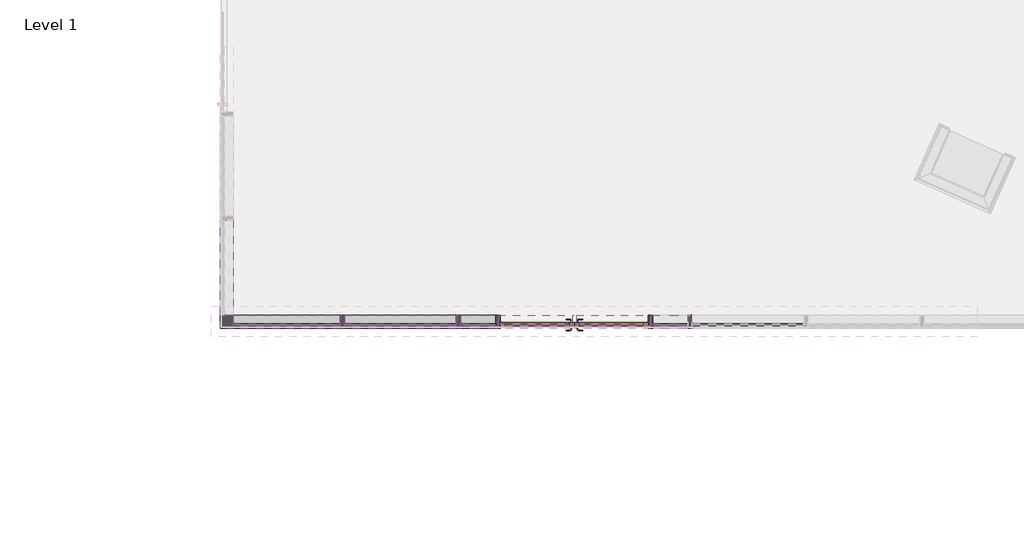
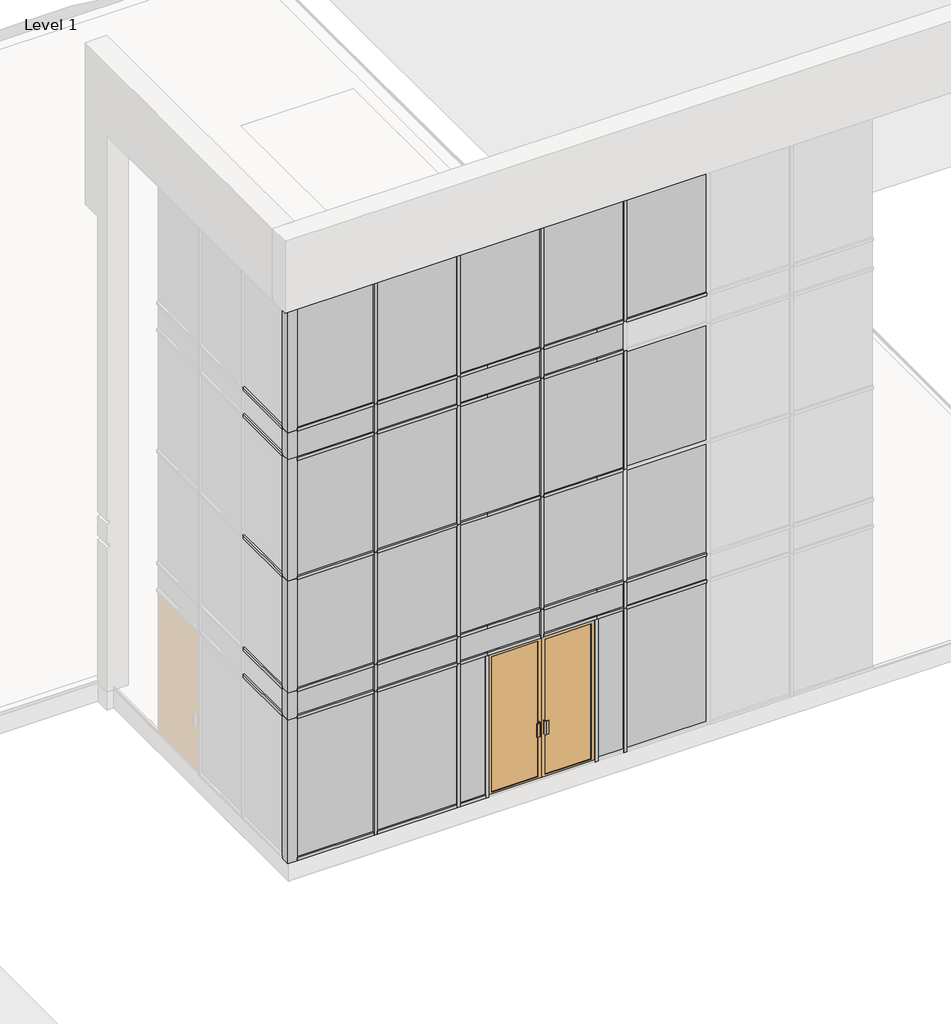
# One storey, part 1 of 6: 78 members, 29 plates, 1 door.
"""IFC4 building model written with IfcOpenShell, lengths in millimetres."""

from ifc_helpers import new_model, si_unit, origin, place, context, project, spatial, transform, mapped, element, save
from components import curtain_wall_store_front_dbl_store_front_double_door_801bb5a2, quad_corner_mullion_quad_mullion_1_36401268, quad_corner_mullion_quad_mullion_1_ea4f9b91, quad_corner_mullion_quad_mullion_1_01ad82a5, quad_corner_mullion_quad_mullion_1_1bba9a7c, quad_corner_mullion_quad_mullion_1_c8c6a4dc, rectangular_mullion_50_x_150mm_f9e96e8e, rectangular_mullion_50_x_150mm_3e94a90c, rectangular_mullion_50_x_150mm_e5e1dcca, rectangular_mullion_50_x_150mm_55a91b40, rectangular_mullion_50_x_150mm_2677f012, rectangular_mullion_50_x_150mm_a98d9a75, rectangular_mullion_50_x_150mm_ec0a15ed, rectangular_mullion_50_x_150mm_1c0c8fcc, rectangular_mullion_50_x_150mm_eadac301, rectangular_mullion_50_x_150mm_5d9cdbe7, rectangular_mullion_50_x_150mm_d8a6659f, rectangular_mullion_50_x_150mm_fcddba0b, rectangular_mullion_50_x_150mm_a0320c88, rectangular_mullion_50_x_150mm_ca17d0d0, rectangular_mullion_50_x_150mm_5d0e247a, rectangular_mullion_50_x_150mm_ac182503, rectangular_mullion_50_x_150mm_6df5bc23, rectangular_mullion_50_x_150mm_c664ab49, rectangular_mullion_50_x_150mm_22f77a7a, system_panel_glazed_e39aac95, system_panel_glazed_619aa5c3, system_panel_glazed_1cc95e9d, system_panel_glazed_5f4b9808, system_panel_glazed_b287760b, system_panel_glazed_29643dd6, system_panel_glazed_af9e971b, system_panel_glazed_48c6fd0a, system_panel_glazed_c7737e29, system_panel_glazed_306ee6b9, system_panel_glazed_77750b0d, system_panel_glazed_203c2d9e, system_panel_glazed_886dd139, system_panel_glazed_da816d4c, system_panel_glazed_7acc0e97, system_panel_glazed_b8e40a07, system_panel_glazed_b5705625, system_panel_glazed_676078d9, system_panel_glazed_869bd01b, system_panel_glazed_e5b4937b, system_panel_glazed_d8b70277, system_panel_glazed_a0fe1279, system_panel_glazed_06afaa24

model = new_model("IFC4")

# Units and contexts
model_context = context("Model", 3, world=origin())
ifc_project = project(units=[si_unit("LENGTHUNIT", "METRE", prefix="MILLI")], contexts=[model_context])

# Site, building, storey
site = spatial("IfcSite", under=ifc_project)
building = spatial("IfcBuilding", under=site)
storey = spatial("IfcBuildingStorey", under=building, Name="Level 1", Elevation=45720.0)

# Door
placement = place(None, origin())
curtain_wall_store_front_dbl_store_front_double_door_shape = curtain_wall_store_front_dbl_store_front_double_door_801bb5a2(model_context)
element("IfcDoor", 1, ObjectType="Curtain Wall-Store Front-Dbl : Store Front Double Door", at=placement, inside=storey, context=model_context, shape_type="MappedRepresentation", body=[
    mapped(curtain_wall_store_front_dbl_store_front_double_door_shape, transform((-6116.5463072, -8109.3373862, 45720.0), x_axis=(-1.0, 0.0, 0.0), y_axis=(0.0, -1.0, 0.0), z_axis=(0.0, 0.0, 1.0))),
])

# Members
quad_corner_mullion_quad_mullion_1_shape = quad_corner_mullion_quad_mullion_1_36401268(model_context)
element("IfcMember", 2, ObjectType="Quad Corner Mullion : Quad Mullion 1", at=placement, inside=storey, context=model_context, shape_type="MappedRepresentation", body=[
    mapped(quad_corner_mullion_quad_mullion_1_shape, transform((-10125.6188072, -8109.3373862, 50520.0), x_axis=(0.0, -1.0, 0.0), y_axis=(-1.0, 0.0, 0.0), z_axis=(0.0, 0.0, -1.0))),
])
quad_corner_mullion_quad_mullion_1_2_shape = quad_corner_mullion_quad_mullion_1_ea4f9b91(model_context)
element("IfcMember", 3, ObjectType="Quad Corner Mullion : Quad Mullion 1", at=placement, inside=storey, context=model_context, shape_type="MappedRepresentation", body=[
    mapped(quad_corner_mullion_quad_mullion_1_2_shape, transform((-10125.6188072, -8109.3373862, 53035.2), x_axis=(0.0, -1.0, 0.0), y_axis=(-1.0, 0.0, 0.0), z_axis=(0.0, 0.0, -1.0))),
])
quad_corner_mullion_quad_mullion_1_3_shape = quad_corner_mullion_quad_mullion_1_01ad82a5(model_context)
element("IfcMember", 4, ObjectType="Quad Corner Mullion : Quad Mullion 1", at=placement, inside=storey, context=model_context, shape_type="MappedRepresentation", body=[
    mapped(quad_corner_mullion_quad_mullion_1_3_shape, transform((-10125.6188072, -8109.3373862, 48615.6), x_axis=(0.0, -1.0, 0.0), y_axis=(-1.0, 0.0, 0.0), z_axis=(0.0, 0.0, -1.0))),
])
quad_corner_mullion_quad_mullion_1_4_shape = quad_corner_mullion_quad_mullion_1_1bba9a7c(model_context)
element("IfcMember", 5, ObjectType="Quad Corner Mullion : Quad Mullion 1", at=placement, inside=storey, context=model_context, shape_type="MappedRepresentation", body=[
    mapped(quad_corner_mullion_quad_mullion_1_4_shape, transform((-10125.6188072, -8109.3373862, 48158.4), x_axis=(0.0, -1.0, 0.0), y_axis=(-1.0, 0.0, 0.0), z_axis=(0.0, 0.0, -1.0))),
])
element("IfcMember", 6, ObjectType="Quad Corner Mullion : Quad Mullion 1", at=placement, inside=storey, context=model_context, shape_type="MappedRepresentation", body=[
    mapped(quad_corner_mullion_quad_mullion_1_4_shape, transform((-10125.6188072, -8109.3373862, 52578.0), x_axis=(0.0, -1.0, 0.0), y_axis=(-1.0, 0.0, 0.0), z_axis=(0.0, 0.0, -1.0))),
])
quad_corner_mullion_quad_mullion_1_5_shape = quad_corner_mullion_quad_mullion_1_c8c6a4dc(model_context)
element("IfcMember", 7, ObjectType="Quad Corner Mullion : Quad Mullion 1", at=placement, inside=storey, context=model_context, shape_type="MappedRepresentation", body=[
    mapped(quad_corner_mullion_quad_mullion_1_5_shape, transform((-10125.6188072, -8109.3373862, 45720.0), x_axis=(0.0, -1.0, 0.0), y_axis=(-1.0, 0.0, 0.0), z_axis=(0.0, 0.0, -1.0))),
])
rectangular_mullion_50_x_150mm_shape = rectangular_mullion_50_x_150mm_f9e96e8e(model_context)
element("IfcMember", 8, ObjectType="Rectangular Mullion : 50 x 150mm", at=placement, inside=storey, context=model_context, shape_type="MappedRepresentation", body=[
    mapped(rectangular_mullion_50_x_150mm_shape, transform((-10125.6188072, -8034.3373862, 55168.8), x_axis=(0.0, 0.0, 1.0), y_axis=(-1.0, 0.0, 0.0), z_axis=(0.0, -1.0, 0.0))),
])
rectangular_mullion_50_x_150mm_2_shape = rectangular_mullion_50_x_150mm_3e94a90c(model_context)
element("IfcMember", 9, ObjectType="Rectangular Mullion : 50 x 150mm", at=placement, inside=storey, context=model_context, shape_type="MappedRepresentation", body=[
    mapped(rectangular_mullion_50_x_150mm_2_shape, transform((-10125.6188072, -8034.3373862, 48158.4), x_axis=(0.0, 0.0, 1.0), y_axis=(-1.0, 0.0, 0.0), z_axis=(0.0, -1.0, 0.0))),
])
element("IfcMember", 10, ObjectType="Rectangular Mullion : 50 x 150mm", at=placement, inside=storey, context=model_context, shape_type="MappedRepresentation", body=[
    mapped(rectangular_mullion_50_x_150mm_2_shape, transform((-10125.6188072, -8034.3373862, 50520.0), x_axis=(0.0, 0.0, 1.0), y_axis=(-1.0, 0.0, 0.0), z_axis=(0.0, -1.0, 0.0))),
])
element("IfcMember", 11, ObjectType="Rectangular Mullion : 50 x 150mm", at=placement, inside=storey, context=model_context, shape_type="MappedRepresentation", body=[
    mapped(rectangular_mullion_50_x_150mm_2_shape, transform((-10125.6188072, -8034.3373862, 53035.2), x_axis=(0.0, 0.0, 1.0), y_axis=(-1.0, 0.0, 0.0), z_axis=(0.0, -1.0, 0.0))),
])
element("IfcMember", 12, ObjectType="Rectangular Mullion : 50 x 150mm", at=placement, inside=storey, context=model_context, shape_type="MappedRepresentation", body=[
    mapped(rectangular_mullion_50_x_150mm_2_shape, transform((-10125.6188072, -8034.3373862, 48615.6), x_axis=(0.0, 0.0, 1.0), y_axis=(-1.0, 0.0, 0.0), z_axis=(0.0, -1.0, 0.0))),
])
element("IfcMember", 13, ObjectType="Rectangular Mullion : 50 x 150mm", at=placement, inside=storey, context=model_context, shape_type="MappedRepresentation", body=[
    mapped(rectangular_mullion_50_x_150mm_2_shape, transform((-10125.6188072, -8034.3373862, 52578.0), x_axis=(0.0, 0.0, 1.0), y_axis=(-1.0, 0.0, 0.0), z_axis=(0.0, -1.0, 0.0))),
])
rectangular_mullion_50_x_150mm_3_shape = rectangular_mullion_50_x_150mm_e5e1dcca(model_context)
element("IfcMember", 14, ObjectType="Rectangular Mullion : 50 x 150mm", at=placement, inside=storey, context=model_context, shape_type="MappedRepresentation", body=[
    mapped(rectangular_mullion_50_x_150mm_3_shape, transform((-8789.2613072, -8109.3373862, 48158.4), x_axis=(-1.0, 0.0, 0.0), y_axis=(0.0, 1.0, 0.0), z_axis=(0.0, 0.0, -1.0))),
])
element("IfcMember", 15, ObjectType="Rectangular Mullion : 50 x 150mm", at=placement, inside=storey, context=model_context, shape_type="MappedRepresentation", body=[
    mapped(rectangular_mullion_50_x_150mm_3_shape, transform((-7452.9038072, -8109.3373862, 48158.4), x_axis=(-1.0, 0.0, 0.0), y_axis=(0.0, 1.0, 0.0), z_axis=(0.0, 0.0, -1.0))),
])
element("IfcMember", 16, ObjectType="Rectangular Mullion : 50 x 150mm", at=placement, inside=storey, context=model_context, shape_type="MappedRepresentation", body=[
    mapped(rectangular_mullion_50_x_150mm_3_shape, transform((-4780.1888072, -8109.3373862, 48158.4), x_axis=(-1.0, 0.0, 0.0), y_axis=(0.0, 1.0, 0.0), z_axis=(0.0, 0.0, -1.0))),
])
rectangular_mullion_50_x_150mm_4_shape = rectangular_mullion_50_x_150mm_55a91b40(model_context)
element("IfcMember", 17, ObjectType="Rectangular Mullion : 50 x 150mm", at=placement, inside=storey, context=model_context, shape_type="MappedRepresentation", body=[
    mapped(rectangular_mullion_50_x_150mm_4_shape, transform((-8789.2613072, -8109.3373862, 48615.6), x_axis=(-1.0, 0.0, 0.0), y_axis=(0.0, 1.0, 0.0), z_axis=(0.0, 0.0, -1.0))),
])
element("IfcMember", 18, ObjectType="Rectangular Mullion : 50 x 150mm", at=placement, inside=storey, context=model_context, shape_type="MappedRepresentation", body=[
    mapped(rectangular_mullion_50_x_150mm_4_shape, transform((-7452.9038072, -8109.3373862, 48615.6), x_axis=(-1.0, 0.0, 0.0), y_axis=(0.0, 1.0, 0.0), z_axis=(0.0, 0.0, -1.0))),
])
element("IfcMember", 19, ObjectType="Rectangular Mullion : 50 x 150mm", at=placement, inside=storey, context=model_context, shape_type="MappedRepresentation", body=[
    mapped(rectangular_mullion_50_x_150mm_4_shape, transform((-6116.5463072, -8109.3373862, 48615.6), x_axis=(-1.0, 0.0, 0.0), y_axis=(0.0, 1.0, 0.0), z_axis=(0.0, 0.0, -1.0))),
])
rectangular_mullion_50_x_150mm_5_shape = rectangular_mullion_50_x_150mm_2677f012(model_context)
element("IfcMember", 20, ObjectType="Rectangular Mullion : 50 x 150mm", at=placement, inside=storey, context=model_context, shape_type="MappedRepresentation", body=[
    mapped(rectangular_mullion_50_x_150mm_5_shape, transform((-8789.2613072, -8109.3373862, 53035.2), x_axis=(-1.0, 0.0, 0.0), y_axis=(0.0, 1.0, 0.0), z_axis=(0.0, 0.0, -1.0))),
])
element("IfcMember", 21, ObjectType="Rectangular Mullion : 50 x 150mm", at=placement, inside=storey, context=model_context, shape_type="MappedRepresentation", body=[
    mapped(rectangular_mullion_50_x_150mm_5_shape, transform((-7452.9038072, -8109.3373862, 53035.2), x_axis=(-1.0, 0.0, 0.0), y_axis=(0.0, 1.0, 0.0), z_axis=(0.0, 0.0, -1.0))),
])
element("IfcMember", 22, ObjectType="Rectangular Mullion : 50 x 150mm", at=placement, inside=storey, context=model_context, shape_type="MappedRepresentation", body=[
    mapped(rectangular_mullion_50_x_150mm_5_shape, transform((-4780.1888072, -8109.3373862, 53035.2), x_axis=(-1.0, 0.0, 0.0), y_axis=(0.0, 1.0, 0.0), z_axis=(0.0, 0.0, -1.0))),
])
element("IfcMember", 23, ObjectType="Rectangular Mullion : 50 x 150mm", at=placement, inside=storey, context=model_context, shape_type="MappedRepresentation", body=[
    mapped(rectangular_mullion_50_x_150mm_5_shape, transform((-6116.5463072, -8109.3373862, 53035.2), x_axis=(-1.0, 0.0, 0.0), y_axis=(0.0, 1.0, 0.0), z_axis=(0.0, 0.0, -1.0))),
])
rectangular_mullion_50_x_150mm_6_shape = rectangular_mullion_50_x_150mm_a98d9a75(model_context)
element("IfcMember", 24, ObjectType="Rectangular Mullion : 50 x 150mm", at=placement, inside=storey, context=model_context, shape_type="MappedRepresentation", body=[
    mapped(rectangular_mullion_50_x_150mm_6_shape, transform((-7452.9038072, -8109.3373862, 45720.0), x_axis=(-1.0, 0.0, 0.0), y_axis=(0.0, 1.0, 0.0), z_axis=(0.0, 0.0, -1.0))),
])
element("IfcMember", 25, ObjectType="Rectangular Mullion : 50 x 150mm", at=placement, inside=storey, context=model_context, shape_type="MappedRepresentation", body=[
    mapped(rectangular_mullion_50_x_150mm_6_shape, transform((-4780.1888072, -8109.3373862, 45720.0), x_axis=(-1.0, 0.0, 0.0), y_axis=(0.0, 1.0, 0.0), z_axis=(0.0, 0.0, -1.0))),
])
element("IfcMember", 26, ObjectType="Rectangular Mullion : 50 x 150mm", at=placement, inside=storey, context=model_context, shape_type="MappedRepresentation", body=[
    mapped(rectangular_mullion_50_x_150mm_6_shape, transform((-8789.2613072, -8109.3373862, 45720.0), x_axis=(-1.0, 0.0, 0.0), y_axis=(0.0, 1.0, 0.0), z_axis=(0.0, 0.0, -1.0))),
])
rectangular_mullion_50_x_150mm_7_shape = rectangular_mullion_50_x_150mm_ec0a15ed(model_context)
element("IfcMember", 27, ObjectType="Rectangular Mullion : 50 x 150mm", at=placement, inside=storey, context=model_context, shape_type="MappedRepresentation", body=[
    mapped(rectangular_mullion_50_x_150mm_7_shape, transform((-6116.5463072, -8109.3373862, 48133.4), x_axis=(-1.0, 0.0, 0.0), y_axis=(0.0, 1.0, 0.0), z_axis=(0.0, 0.0, -1.0))),
])
rectangular_mullion_50_x_150mm_8_shape = rectangular_mullion_50_x_150mm_1c0c8fcc(model_context)
element("IfcMember", 28, ObjectType="Rectangular Mullion : 50 x 150mm", at=placement, inside=storey, context=model_context, shape_type="MappedRepresentation", body=[
    mapped(rectangular_mullion_50_x_150mm_8_shape, transform((-4755.1888072, -8109.3373862, 48615.6), x_axis=(0.0, 0.0, 1.0), y_axis=(0.0, 1.0, 0.0), z_axis=(-1.0, 0.0, 0.0))),
])
element("IfcMember", 29, ObjectType="Rectangular Mullion : 50 x 150mm", at=placement, inside=storey, context=model_context, shape_type="MappedRepresentation", body=[
    mapped(rectangular_mullion_50_x_150mm_8_shape, transform((-8764.2613072, -8109.3373862, 48158.4), x_axis=(0.0, 0.0, 1.0), y_axis=(0.0, 1.0, 0.0), z_axis=(-1.0, 0.0, 0.0))),
])
element("IfcMember", 30, ObjectType="Rectangular Mullion : 50 x 150mm", at=placement, inside=storey, context=model_context, shape_type="MappedRepresentation", body=[
    mapped(rectangular_mullion_50_x_150mm_8_shape, transform((-4755.1888072, -8109.3373862, 48158.4), x_axis=(0.0, 0.0, 1.0), y_axis=(0.0, 1.0, 0.0), z_axis=(-1.0, 0.0, 0.0))),
])
element("IfcMember", 31, ObjectType="Rectangular Mullion : 50 x 150mm", at=placement, inside=storey, context=model_context, shape_type="MappedRepresentation", body=[
    mapped(rectangular_mullion_50_x_150mm_8_shape, transform((-8764.2613072, -8109.3373862, 48615.6), x_axis=(0.0, 0.0, 1.0), y_axis=(0.0, 1.0, 0.0), z_axis=(-1.0, 0.0, 0.0))),
])
element("IfcMember", 32, ObjectType="Rectangular Mullion : 50 x 150mm", at=placement, inside=storey, context=model_context, shape_type="MappedRepresentation", body=[
    mapped(rectangular_mullion_50_x_150mm_8_shape, transform((-4755.1888072, -8109.3373862, 53035.2), x_axis=(0.0, 0.0, 1.0), y_axis=(0.0, 1.0, 0.0), z_axis=(-1.0, 0.0, 0.0))),
])
element("IfcMember", 33, ObjectType="Rectangular Mullion : 50 x 150mm", at=placement, inside=storey, context=model_context, shape_type="MappedRepresentation", body=[
    mapped(rectangular_mullion_50_x_150mm_8_shape, transform((-8764.2613072, -8109.3373862, 50520.0), x_axis=(0.0, 0.0, 1.0), y_axis=(0.0, 1.0, 0.0), z_axis=(-1.0, 0.0, 0.0))),
])
element("IfcMember", 34, ObjectType="Rectangular Mullion : 50 x 150mm", at=placement, inside=storey, context=model_context, shape_type="MappedRepresentation", body=[
    mapped(rectangular_mullion_50_x_150mm_8_shape, transform((-8764.2613072, -8109.3373862, 53035.2), x_axis=(0.0, 0.0, 1.0), y_axis=(0.0, 1.0, 0.0), z_axis=(-1.0, 0.0, 0.0))),
])
element("IfcMember", 35, ObjectType="Rectangular Mullion : 50 x 150mm", at=placement, inside=storey, context=model_context, shape_type="MappedRepresentation", body=[
    mapped(rectangular_mullion_50_x_150mm_8_shape, transform((-8764.2613072, -8109.3373862, 52535.2), x_axis=(0.0, 0.0, 1.0), y_axis=(0.0, 1.0, 0.0), z_axis=(-1.0, 0.0, 0.0))),
])
rectangular_mullion_50_x_150mm_9_shape = rectangular_mullion_50_x_150mm_eadac301(model_context)
element("IfcMember", 36, ObjectType="Rectangular Mullion : 50 x 150mm", at=placement, inside=storey, context=model_context, shape_type="MappedRepresentation", body=[
    mapped(rectangular_mullion_50_x_150mm_9_shape, transform((-10050.6188072, -8109.3373862, 50520.0), x_axis=(0.0, 0.0, 1.0), y_axis=(0.0, 1.0, 0.0), z_axis=(-1.0, 0.0, 0.0))),
])
element("IfcMember", 37, ObjectType="Rectangular Mullion : 50 x 150mm", at=placement, inside=storey, context=model_context, shape_type="MappedRepresentation", body=[
    mapped(rectangular_mullion_50_x_150mm_9_shape, transform((-10050.6188072, -8109.3373862, 48158.4), x_axis=(0.0, 0.0, 1.0), y_axis=(0.0, 1.0, 0.0), z_axis=(-1.0, 0.0, 0.0))),
])
element("IfcMember", 38, ObjectType="Rectangular Mullion : 50 x 150mm", at=placement, inside=storey, context=model_context, shape_type="MappedRepresentation", body=[
    mapped(rectangular_mullion_50_x_150mm_9_shape, transform((-10050.6188072, -8109.3373862, 48615.6), x_axis=(0.0, 0.0, 1.0), y_axis=(0.0, 1.0, 0.0), z_axis=(-1.0, 0.0, 0.0))),
])
element("IfcMember", 39, ObjectType="Rectangular Mullion : 50 x 150mm", at=placement, inside=storey, context=model_context, shape_type="MappedRepresentation", body=[
    mapped(rectangular_mullion_50_x_150mm_9_shape, transform((-10050.6188072, -8109.3373862, 53035.2), x_axis=(0.0, 0.0, 1.0), y_axis=(0.0, 1.0, 0.0), z_axis=(-1.0, 0.0, 0.0))),
])
element("IfcMember", 40, ObjectType="Rectangular Mullion : 50 x 150mm", at=placement, inside=storey, context=model_context, shape_type="MappedRepresentation", body=[
    mapped(rectangular_mullion_50_x_150mm_9_shape, transform((-10050.6188072, -8109.3373862, 52535.2), x_axis=(0.0, 0.0, 1.0), y_axis=(0.0, 1.0, 0.0), z_axis=(-1.0, 0.0, 0.0))),
])
rectangular_mullion_50_x_150mm_10_shape = rectangular_mullion_50_x_150mm_5d9cdbe7(model_context)
element("IfcMember", 41, ObjectType="Rectangular Mullion : 50 x 150mm", at=placement, inside=storey, context=model_context, shape_type="MappedRepresentation", body=[
    mapped(rectangular_mullion_50_x_150mm_10_shape, transform((-7477.9038072, -8109.3373862, 45720.0), x_axis=(0.0, 0.0, -1.0), y_axis=(0.0, 1.0, 0.0), z_axis=(1.0, 0.0, 0.0))),
])
element("IfcMember", 42, ObjectType="Rectangular Mullion : 50 x 150mm", at=placement, inside=storey, context=model_context, shape_type="MappedRepresentation", body=[
    mapped(rectangular_mullion_50_x_150mm_10_shape, transform((-8764.2613072, -8109.3373862, 55168.8), x_axis=(0.0, 0.0, 1.0), y_axis=(0.0, 1.0, 0.0), z_axis=(-1.0, 0.0, 0.0))),
])
element("IfcMember", 43, ObjectType="Rectangular Mullion : 50 x 150mm", at=placement, inside=storey, context=model_context, shape_type="MappedRepresentation", body=[
    mapped(rectangular_mullion_50_x_150mm_10_shape, transform((-4755.1888072, -8109.3373862, 55168.8), x_axis=(0.0, 0.0, 1.0), y_axis=(0.0, 1.0, 0.0), z_axis=(-1.0, 0.0, 0.0))),
])
rectangular_mullion_50_x_150mm_11_shape = rectangular_mullion_50_x_150mm_d8a6659f(model_context)
element("IfcMember", 44, ObjectType="Rectangular Mullion : 50 x 150mm", at=placement, inside=storey, context=model_context, shape_type="MappedRepresentation", body=[
    mapped(rectangular_mullion_50_x_150mm_11_shape, transform((-10050.6188072, -8109.3373862, 55168.8), x_axis=(0.0, 0.0, 1.0), y_axis=(0.0, 1.0, 0.0), z_axis=(-1.0, 0.0, 0.0))),
])
element("IfcMember", 45, ObjectType="Rectangular Mullion : 50 x 150mm", at=placement, inside=storey, context=model_context, shape_type="MappedRepresentation", body=[
    mapped(rectangular_mullion_50_x_150mm_11_shape, transform((-8814.2613072, -8109.3373862, 45720.0), x_axis=(0.0, 0.0, -1.0), y_axis=(0.0, 1.0, 0.0), z_axis=(1.0, 0.0, 0.0))),
])
rectangular_mullion_50_x_150mm_12_shape = rectangular_mullion_50_x_150mm_fcddba0b(model_context)
element("IfcMember", 46, ObjectType="Rectangular Mullion : 50 x 150mm", at=placement, inside=storey, context=model_context, shape_type="MappedRepresentation", body=[
    mapped(rectangular_mullion_50_x_150mm_12_shape, transform((-6995.7038072, -8109.3373862, 45720.0), x_axis=(-1.0, 0.0, 0.0), y_axis=(0.0, 1.0, 0.0), z_axis=(0.0, 0.0, -1.0))),
])
element("IfcMember", 47, ObjectType="Rectangular Mullion : 50 x 150mm", at=placement, inside=storey, context=model_context, shape_type="MappedRepresentation", body=[
    mapped(rectangular_mullion_50_x_150mm_12_shape, transform((-5237.3888072, -8109.3373862, 45720.0), x_axis=(-1.0, 0.0, 0.0), y_axis=(0.0, 1.0, 0.0), z_axis=(0.0, 0.0, -1.0))),
])
rectangular_mullion_50_x_150mm_13_shape = rectangular_mullion_50_x_150mm_a0320c88(model_context)
element("IfcMember", 48, ObjectType="Rectangular Mullion : 50 x 150mm", at=placement, inside=storey, context=model_context, shape_type="MappedRepresentation", body=[
    mapped(rectangular_mullion_50_x_150mm_13_shape, transform((-7427.9038072, -8109.3373862, 55168.8), x_axis=(0.0, 0.0, 1.0), y_axis=(0.0, 1.0, 0.0), z_axis=(-1.0, 0.0, 0.0))),
])
rectangular_mullion_50_x_150mm_14_shape = rectangular_mullion_50_x_150mm_ca17d0d0(model_context)
element("IfcMember", 49, ObjectType="Rectangular Mullion : 50 x 150mm", at=placement, inside=storey, context=model_context, shape_type="MappedRepresentation", body=[
    mapped(rectangular_mullion_50_x_150mm_14_shape, transform((-6995.7038072, -8109.3373862, 48158.4), x_axis=(0.0, 0.0, 1.0), y_axis=(0.0, 1.0, 0.0), z_axis=(-1.0, 0.0, 0.0))),
])
element("IfcMember", 50, ObjectType="Rectangular Mullion : 50 x 150mm", at=placement, inside=storey, context=model_context, shape_type="MappedRepresentation", body=[
    mapped(rectangular_mullion_50_x_150mm_14_shape, transform((-6995.7038072, -8109.3373862, 48615.6), x_axis=(0.0, 0.0, 1.0), y_axis=(0.0, 1.0, 0.0), z_axis=(-1.0, 0.0, 0.0))),
])
element("IfcMember", 51, ObjectType="Rectangular Mullion : 50 x 150mm", at=placement, inside=storey, context=model_context, shape_type="MappedRepresentation", body=[
    mapped(rectangular_mullion_50_x_150mm_14_shape, transform((-6995.7038072, -8109.3373862, 50520.0), x_axis=(0.0, 0.0, 1.0), y_axis=(0.0, 1.0, 0.0), z_axis=(-1.0, 0.0, 0.0))),
])
element("IfcMember", 52, ObjectType="Rectangular Mullion : 50 x 150mm", at=placement, inside=storey, context=model_context, shape_type="MappedRepresentation", body=[
    mapped(rectangular_mullion_50_x_150mm_14_shape, transform((-6995.7038072, -8109.3373862, 53035.2), x_axis=(0.0, 0.0, 1.0), y_axis=(0.0, 1.0, 0.0), z_axis=(-1.0, 0.0, 0.0))),
])
element("IfcMember", 53, ObjectType="Rectangular Mullion : 50 x 150mm", at=placement, inside=storey, context=model_context, shape_type="MappedRepresentation", body=[
    mapped(rectangular_mullion_50_x_150mm_14_shape, transform((-6995.7038072, -8109.3373862, 52535.2), x_axis=(0.0, 0.0, 1.0), y_axis=(0.0, 1.0, 0.0), z_axis=(-1.0, 0.0, 0.0))),
])
rectangular_mullion_50_x_150mm_15_shape = rectangular_mullion_50_x_150mm_5d0e247a(model_context)
element("IfcMember", 54, ObjectType="Rectangular Mullion : 50 x 150mm", at=placement, inside=storey, context=model_context, shape_type="MappedRepresentation", body=[
    mapped(rectangular_mullion_50_x_150mm_15_shape, transform((-6995.7038072, -8109.3373862, 55168.8), x_axis=(0.0, 0.0, 1.0), y_axis=(0.0, 1.0, 0.0), z_axis=(-1.0, 0.0, 0.0))),
])
rectangular_mullion_50_x_150mm_16_shape = rectangular_mullion_50_x_150mm_ac182503(model_context)
element("IfcMember", 55, ObjectType="Rectangular Mullion : 50 x 150mm", at=placement, inside=storey, context=model_context, shape_type="MappedRepresentation", body=[
    mapped(rectangular_mullion_50_x_150mm_16_shape, transform((-7427.9038072, -8109.3373862, 48158.4), x_axis=(0.0, 0.0, 1.0), y_axis=(0.0, 1.0, 0.0), z_axis=(-1.0, 0.0, 0.0))),
])
element("IfcMember", 56, ObjectType="Rectangular Mullion : 50 x 150mm", at=placement, inside=storey, context=model_context, shape_type="MappedRepresentation", body=[
    mapped(rectangular_mullion_50_x_150mm_16_shape, transform((-7427.9038072, -8109.3373862, 48615.6), x_axis=(0.0, 0.0, 1.0), y_axis=(0.0, 1.0, 0.0), z_axis=(-1.0, 0.0, 0.0))),
])
element("IfcMember", 57, ObjectType="Rectangular Mullion : 50 x 150mm", at=placement, inside=storey, context=model_context, shape_type="MappedRepresentation", body=[
    mapped(rectangular_mullion_50_x_150mm_16_shape, transform((-7427.9038072, -8109.3373862, 50520.0), x_axis=(0.0, 0.0, 1.0), y_axis=(0.0, 1.0, 0.0), z_axis=(-1.0, 0.0, 0.0))),
])
element("IfcMember", 58, ObjectType="Rectangular Mullion : 50 x 150mm", at=placement, inside=storey, context=model_context, shape_type="MappedRepresentation", body=[
    mapped(rectangular_mullion_50_x_150mm_16_shape, transform((-7427.9038072, -8109.3373862, 53035.2), x_axis=(0.0, 0.0, 1.0), y_axis=(0.0, 1.0, 0.0), z_axis=(-1.0, 0.0, 0.0))),
])
element("IfcMember", 59, ObjectType="Rectangular Mullion : 50 x 150mm", at=placement, inside=storey, context=model_context, shape_type="MappedRepresentation", body=[
    mapped(rectangular_mullion_50_x_150mm_16_shape, transform((-7427.9038072, -8109.3373862, 52535.2), x_axis=(0.0, 0.0, 1.0), y_axis=(0.0, 1.0, 0.0), z_axis=(-1.0, 0.0, 0.0))),
])
rectangular_mullion_50_x_150mm_17_shape = rectangular_mullion_50_x_150mm_6df5bc23(model_context)
element("IfcMember", 60, ObjectType="Rectangular Mullion : 50 x 150mm", at=placement, inside=storey, context=model_context, shape_type="MappedRepresentation", body=[
    mapped(rectangular_mullion_50_x_150mm_17_shape, transform((-7020.7038072, -8109.3373862, 45720.0), x_axis=(0.0, 0.0, -1.0), y_axis=(0.0, 1.0, 0.0), z_axis=(1.0, 0.0, 0.0))),
])
element("IfcMember", 61, ObjectType="Rectangular Mullion : 50 x 150mm", at=placement, inside=storey, context=model_context, shape_type="MappedRepresentation", body=[
    mapped(rectangular_mullion_50_x_150mm_16_shape, transform((-5237.3888072, -8109.3373862, 48615.6), x_axis=(0.0, 0.0, 1.0), y_axis=(0.0, 1.0, 0.0), z_axis=(-1.0, 0.0, 0.0))),
])
element("IfcMember", 62, ObjectType="Rectangular Mullion : 50 x 150mm", at=placement, inside=storey, context=model_context, shape_type="MappedRepresentation", body=[
    mapped(rectangular_mullion_50_x_150mm_16_shape, transform((-5237.3888072, -8109.3373862, 53035.2), x_axis=(0.0, 0.0, 1.0), y_axis=(0.0, 1.0, 0.0), z_axis=(-1.0, 0.0, 0.0))),
])
element("IfcMember", 63, ObjectType="Rectangular Mullion : 50 x 150mm", at=placement, inside=storey, context=model_context, shape_type="MappedRepresentation", body=[
    mapped(rectangular_mullion_50_x_150mm_16_shape, transform((-5237.3888072, -8109.3373862, 50520.0), x_axis=(0.0, 0.0, 1.0), y_axis=(0.0, 1.0, 0.0), z_axis=(-1.0, 0.0, 0.0))),
])
element("IfcMember", 64, ObjectType="Rectangular Mullion : 50 x 150mm", at=placement, inside=storey, context=model_context, shape_type="MappedRepresentation", body=[
    mapped(rectangular_mullion_50_x_150mm_16_shape, transform((-5237.3888072, -8109.3373862, 52535.2), x_axis=(0.0, 0.0, 1.0), y_axis=(0.0, 1.0, 0.0), z_axis=(-1.0, 0.0, 0.0))),
])
element("IfcMember", 65, ObjectType="Rectangular Mullion : 50 x 150mm", at=placement, inside=storey, context=model_context, shape_type="MappedRepresentation", body=[
    mapped(rectangular_mullion_50_x_150mm_15_shape, transform((-6091.5463072, -8109.3373862, 55168.8), x_axis=(0.0, 0.0, 1.0), y_axis=(0.0, 1.0, 0.0), z_axis=(-1.0, 0.0, 0.0))),
])
element("IfcMember", 66, ObjectType="Rectangular Mullion : 50 x 150mm", at=placement, inside=storey, context=model_context, shape_type="MappedRepresentation", body=[
    mapped(rectangular_mullion_50_x_150mm_16_shape, transform((-5237.3888072, -8109.3373862, 48158.4), x_axis=(0.0, 0.0, 1.0), y_axis=(0.0, 1.0, 0.0), z_axis=(-1.0, 0.0, 0.0))),
])
element("IfcMember", 67, ObjectType="Rectangular Mullion : 50 x 150mm", at=placement, inside=storey, context=model_context, shape_type="MappedRepresentation", body=[
    mapped(rectangular_mullion_50_x_150mm_14_shape, transform((-6091.5463072, -8109.3373862, 48615.6), x_axis=(0.0, 0.0, 1.0), y_axis=(0.0, 1.0, 0.0), z_axis=(-1.0, 0.0, 0.0))),
])
element("IfcMember", 68, ObjectType="Rectangular Mullion : 50 x 150mm", at=placement, inside=storey, context=model_context, shape_type="MappedRepresentation", body=[
    mapped(rectangular_mullion_50_x_150mm_14_shape, transform((-6091.5463072, -8109.3373862, 53035.2), x_axis=(0.0, 0.0, 1.0), y_axis=(0.0, 1.0, 0.0), z_axis=(-1.0, 0.0, 0.0))),
])
element("IfcMember", 69, ObjectType="Rectangular Mullion : 50 x 150mm", at=placement, inside=storey, context=model_context, shape_type="MappedRepresentation", body=[
    mapped(rectangular_mullion_50_x_150mm_14_shape, transform((-6091.5463072, -8109.3373862, 50520.0), x_axis=(0.0, 0.0, 1.0), y_axis=(0.0, 1.0, 0.0), z_axis=(-1.0, 0.0, 0.0))),
])
element("IfcMember", 70, ObjectType="Rectangular Mullion : 50 x 150mm", at=placement, inside=storey, context=model_context, shape_type="MappedRepresentation", body=[
    mapped(rectangular_mullion_50_x_150mm_14_shape, transform((-6091.5463072, -8109.3373862, 52535.2), x_axis=(0.0, 0.0, 1.0), y_axis=(0.0, 1.0, 0.0), z_axis=(-1.0, 0.0, 0.0))),
])
element("IfcMember", 71, ObjectType="Rectangular Mullion : 50 x 150mm", at=placement, inside=storey, context=model_context, shape_type="MappedRepresentation", body=[
    mapped(rectangular_mullion_50_x_150mm_13_shape, transform((-5237.3888072, -8109.3373862, 55168.8), x_axis=(0.0, 0.0, 1.0), y_axis=(0.0, 1.0, 0.0), z_axis=(-1.0, 0.0, 0.0))),
])
element("IfcMember", 72, ObjectType="Rectangular Mullion : 50 x 150mm", at=placement, inside=storey, context=model_context, shape_type="MappedRepresentation", body=[
    mapped(rectangular_mullion_50_x_150mm_14_shape, transform((-6091.5463072, -8109.3373862, 48158.4), x_axis=(0.0, 0.0, 1.0), y_axis=(0.0, 1.0, 0.0), z_axis=(-1.0, 0.0, 0.0))),
])
rectangular_mullion_50_x_150mm_18_shape = rectangular_mullion_50_x_150mm_c664ab49(model_context)
element("IfcMember", 73, ObjectType="Rectangular Mullion : 50 x 150mm", at=placement, inside=storey, context=model_context, shape_type="MappedRepresentation", body=[
    mapped(rectangular_mullion_50_x_150mm_18_shape, transform((-7452.9038072, -8109.3373862, 50520.0), x_axis=(-1.0, 0.0, 0.0), y_axis=(0.0, 1.0, 0.0), z_axis=(0.0, 0.0, -1.0))),
])
element("IfcMember", 74, ObjectType="Rectangular Mullion : 50 x 150mm", at=placement, inside=storey, context=model_context, shape_type="MappedRepresentation", body=[
    mapped(rectangular_mullion_50_x_150mm_18_shape, transform((-8789.2613072, -8109.3373862, 50520.0), x_axis=(-1.0, 0.0, 0.0), y_axis=(0.0, 1.0, 0.0), z_axis=(0.0, 0.0, -1.0))),
])
element("IfcMember", 75, ObjectType="Rectangular Mullion : 50 x 150mm", at=placement, inside=storey, context=model_context, shape_type="MappedRepresentation", body=[
    mapped(rectangular_mullion_50_x_150mm_18_shape, transform((-6116.5463072, -8109.3373862, 50520.0), x_axis=(-1.0, 0.0, 0.0), y_axis=(0.0, 1.0, 0.0), z_axis=(0.0, 0.0, -1.0))),
])
element("IfcMember", 76, ObjectType="Rectangular Mullion : 50 x 150mm", at=placement, inside=storey, context=model_context, shape_type="MappedRepresentation", body=[
    mapped(rectangular_mullion_50_x_150mm_18_shape, transform((-4780.1888072, -8109.3373862, 50520.0), x_axis=(-1.0, 0.0, 0.0), y_axis=(0.0, 1.0, 0.0), z_axis=(0.0, 0.0, -1.0))),
])
rectangular_mullion_50_x_150mm_19_shape = rectangular_mullion_50_x_150mm_22f77a7a(model_context)
element("IfcMember", 77, ObjectType="Rectangular Mullion : 50 x 150mm", at=placement, inside=storey, context=model_context, shape_type="MappedRepresentation", body=[
    mapped(rectangular_mullion_50_x_150mm_19_shape, transform((-7452.9038072, -8109.3373862, 52535.2), x_axis=(-1.0, 0.0, 0.0), y_axis=(0.0, 1.0, 0.0), z_axis=(0.0, 0.0, -1.0))),
])
element("IfcMember", 78, ObjectType="Rectangular Mullion : 50 x 150mm", at=placement, inside=storey, context=model_context, shape_type="MappedRepresentation", body=[
    mapped(rectangular_mullion_50_x_150mm_19_shape, transform((-8789.2613072, -8109.3373862, 52535.2), x_axis=(-1.0, 0.0, 0.0), y_axis=(0.0, 1.0, 0.0), z_axis=(0.0, 0.0, -1.0))),
])
element("IfcMember", 79, ObjectType="Rectangular Mullion : 50 x 150mm", at=placement, inside=storey, context=model_context, shape_type="MappedRepresentation", body=[
    mapped(rectangular_mullion_50_x_150mm_19_shape, transform((-6116.5463072, -8109.3373862, 52535.2), x_axis=(-1.0, 0.0, 0.0), y_axis=(0.0, 1.0, 0.0), z_axis=(0.0, 0.0, -1.0))),
])

# Plates
system_panel_glazed_shape = system_panel_glazed_e39aac95(model_context)
element("IfcPlate", 80, ObjectType="System Panel : Glazed", at=placement, inside=storey, context=model_context, shape_type="MappedRepresentation", body=[
    mapped(system_panel_glazed_shape, transform((-9432.4400572, -8109.3373862, 45770.0), x_axis=(-1.0, 0.0, 0.0), y_axis=(0.0, -1.0, 0.0), z_axis=(0.0, 0.0, 1.0))),
])
system_panel_glazed_2_shape = system_panel_glazed_619aa5c3(model_context)
element("IfcPlate", 81, ObjectType="System Panel : Glazed", at=placement, inside=storey, context=model_context, shape_type="MappedRepresentation", body=[
    mapped(system_panel_glazed_2_shape, transform((-9432.4400572, -8109.3373862, 48183.4), x_axis=(-1.0, 0.0, 0.0), y_axis=(0.0, -1.0, 0.0), z_axis=(0.0, 0.0, 1.0))),
])
system_panel_glazed_3_shape = system_panel_glazed_1cc95e9d(model_context)
element("IfcPlate", 82, ObjectType="System Panel : Glazed", at=placement, inside=storey, context=model_context, shape_type="MappedRepresentation", body=[
    mapped(system_panel_glazed_3_shape, transform((-9432.4400572, -8109.3373862, 48640.6), x_axis=(-1.0, 0.0, 0.0), y_axis=(0.0, -1.0, 0.0), z_axis=(0.0, 0.0, 1.0))),
])
system_panel_glazed_4_shape = system_panel_glazed_5f4b9808(model_context)
element("IfcPlate", 83, ObjectType="System Panel : Glazed", at=placement, inside=storey, context=model_context, shape_type="MappedRepresentation", body=[
    mapped(system_panel_glazed_4_shape, transform((-9432.4400572, -8109.3373862, 53060.2), x_axis=(-1.0, 0.0, 0.0), y_axis=(0.0, -1.0, 0.0), z_axis=(0.0, 0.0, 1.0))),
])
system_panel_glazed_5_shape = system_panel_glazed_b287760b(model_context)
element("IfcPlate", 84, ObjectType="System Panel : Glazed", at=placement, inside=storey, context=model_context, shape_type="MappedRepresentation", body=[
    mapped(system_panel_glazed_5_shape, transform((-8121.0825572, -8109.3373862, 45770.0), x_axis=(-1.0, 0.0, 0.0), y_axis=(0.0, -1.0, 0.0), z_axis=(0.0, 0.0, 1.0))),
])
element("IfcPlate", 85, ObjectType="System Panel : Glazed", at=placement, inside=storey, context=model_context, shape_type="MappedRepresentation", body=[
    mapped(system_panel_glazed_5_shape, transform((-4112.0100572, -8109.3373862, 45770.0), x_axis=(-1.0, 0.0, 0.0), y_axis=(0.0, -1.0, 0.0), z_axis=(0.0, 0.0, 1.0))),
])
system_panel_glazed_6_shape = system_panel_glazed_29643dd6(model_context)
element("IfcPlate", 86, ObjectType="System Panel : Glazed", at=placement, inside=storey, context=model_context, shape_type="MappedRepresentation", body=[
    mapped(system_panel_glazed_6_shape, transform((-8121.0825572, -8109.3373862, 48183.4), x_axis=(-1.0, 0.0, 0.0), y_axis=(0.0, -1.0, 0.0), z_axis=(0.0, 0.0, 1.0))),
])
element("IfcPlate", 87, ObjectType="System Panel : Glazed", at=placement, inside=storey, context=model_context, shape_type="MappedRepresentation", body=[
    mapped(system_panel_glazed_6_shape, transform((-4112.0100572, -8109.3373862, 48183.4), x_axis=(-1.0, 0.0, 0.0), y_axis=(0.0, -1.0, 0.0), z_axis=(0.0, 0.0, 1.0))),
])
system_panel_glazed_7_shape = system_panel_glazed_af9e971b(model_context)
element("IfcPlate", 88, ObjectType="System Panel : Glazed", at=placement, inside=storey, context=model_context, shape_type="MappedRepresentation", body=[
    mapped(system_panel_glazed_7_shape, transform((-8121.0825572, -8109.3373862, 48640.6), x_axis=(-1.0, 0.0, 0.0), y_axis=(0.0, -1.0, 0.0), z_axis=(0.0, 0.0, 1.0))),
])
element("IfcPlate", 89, ObjectType="System Panel : Glazed", at=placement, inside=storey, context=model_context, shape_type="MappedRepresentation", body=[
    mapped(system_panel_glazed_7_shape, transform((-4112.0100572, -8109.3373862, 48640.6), x_axis=(-1.0, 0.0, 0.0), y_axis=(0.0, -1.0, 0.0), z_axis=(0.0, 0.0, 1.0))),
])
system_panel_glazed_8_shape = system_panel_glazed_48c6fd0a(model_context)
element("IfcPlate", 90, ObjectType="System Panel : Glazed", at=placement, inside=storey, context=model_context, shape_type="MappedRepresentation", body=[
    mapped(system_panel_glazed_8_shape, transform((-8121.0825572, -8109.3373862, 53060.2), x_axis=(-1.0, 0.0, 0.0), y_axis=(0.0, -1.0, 0.0), z_axis=(0.0, 0.0, 1.0))),
])
element("IfcPlate", 91, ObjectType="System Panel : Glazed", at=placement, inside=storey, context=model_context, shape_type="MappedRepresentation", body=[
    mapped(system_panel_glazed_8_shape, transform((-4112.0100572, -8109.3373862, 53060.2), x_axis=(-1.0, 0.0, 0.0), y_axis=(0.0, -1.0, 0.0), z_axis=(0.0, 0.0, 1.0))),
])
system_panel_glazed_9_shape = system_panel_glazed_c7737e29(model_context)
element("IfcPlate", 92, ObjectType="System Panel : Glazed", at=placement, inside=storey, context=model_context, shape_type="MappedRepresentation", body=[
    mapped(system_panel_glazed_9_shape, transform((-6784.7250572, -8109.3373862, 48183.4), x_axis=(-1.0, 0.0, 0.0), y_axis=(0.0, -1.0, 0.0), z_axis=(0.0, 0.0, 1.0))),
])
system_panel_glazed_10_shape = system_panel_glazed_306ee6b9(model_context)
element("IfcPlate", 93, ObjectType="System Panel : Glazed", at=placement, inside=storey, context=model_context, shape_type="MappedRepresentation", body=[
    mapped(system_panel_glazed_10_shape, transform((-6784.7250572, -8109.3373862, 48640.6), x_axis=(-1.0, 0.0, 0.0), y_axis=(0.0, -1.0, 0.0), z_axis=(0.0, 0.0, 1.0))),
])
system_panel_glazed_11_shape = system_panel_glazed_77750b0d(model_context)
element("IfcPlate", 94, ObjectType="System Panel : Glazed", at=placement, inside=storey, context=model_context, shape_type="MappedRepresentation", body=[
    mapped(system_panel_glazed_11_shape, transform((-6784.7250572, -8109.3373862, 53060.2), x_axis=(-1.0, 0.0, 0.0), y_axis=(0.0, -1.0, 0.0), z_axis=(0.0, 0.0, 1.0))),
])
system_panel_glazed_12_shape = system_panel_glazed_203c2d9e(model_context)
element("IfcPlate", 95, ObjectType="System Panel : Glazed", at=placement, inside=storey, context=model_context, shape_type="MappedRepresentation", body=[
    mapped(system_panel_glazed_12_shape, transform((-5008.7888072, -8109.3373862, 45770.0), x_axis=(-1.0, 0.0, 0.0), y_axis=(0.0, -1.0, 0.0), z_axis=(0.0, 0.0, 1.0))),
])
element("IfcPlate", 96, ObjectType="System Panel : Glazed", at=placement, inside=storey, context=model_context, shape_type="MappedRepresentation", body=[
    mapped(system_panel_glazed_12_shape, transform((-7224.3038072, -8109.3373862, 45770.0), x_axis=(-1.0, 0.0, 0.0), y_axis=(0.0, -1.0, 0.0), z_axis=(0.0, 0.0, 1.0))),
])
system_panel_glazed_13_shape = system_panel_glazed_886dd139(model_context)
element("IfcPlate", 97, ObjectType="System Panel : Glazed", at=placement, inside=storey, context=model_context, shape_type="MappedRepresentation", body=[
    mapped(system_panel_glazed_13_shape, transform((-5448.3675572, -8109.3373862, 48183.4), x_axis=(-1.0, 0.0, 0.0), y_axis=(0.0, -1.0, 0.0), z_axis=(0.0, 0.0, 1.0))),
])
system_panel_glazed_14_shape = system_panel_glazed_da816d4c(model_context)
element("IfcPlate", 98, ObjectType="System Panel : Glazed", at=placement, inside=storey, context=model_context, shape_type="MappedRepresentation", body=[
    mapped(system_panel_glazed_14_shape, transform((-5448.3675572, -8109.3373862, 48640.6), x_axis=(-1.0, 0.0, 0.0), y_axis=(0.0, -1.0, 0.0), z_axis=(0.0, 0.0, 1.0))),
])
system_panel_glazed_15_shape = system_panel_glazed_7acc0e97(model_context)
element("IfcPlate", 99, ObjectType="System Panel : Glazed", at=placement, inside=storey, context=model_context, shape_type="MappedRepresentation", body=[
    mapped(system_panel_glazed_15_shape, transform((-5448.3675572, -8109.3373862, 53060.2), x_axis=(-1.0, 0.0, 0.0), y_axis=(0.0, -1.0, 0.0), z_axis=(0.0, 0.0, 1.0))),
])
system_panel_glazed_16_shape = system_panel_glazed_b8e40a07(model_context)
element("IfcPlate", 100, ObjectType="System Panel : Glazed", at=placement, inside=storey, context=model_context, shape_type="MappedRepresentation", body=[
    mapped(system_panel_glazed_16_shape, transform((-9432.4400572, -8109.3373862, 50545.0), x_axis=(-1.0, 0.0, 0.0), y_axis=(0.0, -1.0, 0.0), z_axis=(0.0, 0.0, 1.0))),
])
system_panel_glazed_17_shape = system_panel_glazed_b5705625(model_context)
element("IfcPlate", 101, ObjectType="System Panel : Glazed", at=placement, inside=storey, context=model_context, shape_type="MappedRepresentation", body=[
    mapped(system_panel_glazed_17_shape, transform((-8121.0825572, -8109.3373862, 50545.0), x_axis=(-1.0, 0.0, 0.0), y_axis=(0.0, -1.0, 0.0), z_axis=(0.0, 0.0, 1.0))),
])
element("IfcPlate", 102, ObjectType="System Panel : Glazed", at=placement, inside=storey, context=model_context, shape_type="MappedRepresentation", body=[
    mapped(system_panel_glazed_17_shape, transform((-4112.0100572, -8109.3373862, 50545.0), x_axis=(-1.0, 0.0, 0.0), y_axis=(0.0, -1.0, 0.0), z_axis=(0.0, 0.0, 1.0))),
])
system_panel_glazed_18_shape = system_panel_glazed_676078d9(model_context)
element("IfcPlate", 103, ObjectType="System Panel : Glazed", at=placement, inside=storey, context=model_context, shape_type="MappedRepresentation", body=[
    mapped(system_panel_glazed_18_shape, transform((-9432.4400572, -8109.3373862, 52560.2), x_axis=(-1.0, 0.0, 0.0), y_axis=(0.0, -1.0, 0.0), z_axis=(0.0, 0.0, 1.0))),
])
system_panel_glazed_19_shape = system_panel_glazed_869bd01b(model_context)
element("IfcPlate", 104, ObjectType="System Panel : Glazed", at=placement, inside=storey, context=model_context, shape_type="MappedRepresentation", body=[
    mapped(system_panel_glazed_19_shape, transform((-8121.0825572, -8109.3373862, 52560.2), x_axis=(-1.0, 0.0, 0.0), y_axis=(0.0, -1.0, 0.0), z_axis=(0.0, 0.0, 1.0))),
])
system_panel_glazed_20_shape = system_panel_glazed_e5b4937b(model_context)
element("IfcPlate", 105, ObjectType="System Panel : Glazed", at=placement, inside=storey, context=model_context, shape_type="MappedRepresentation", body=[
    mapped(system_panel_glazed_20_shape, transform((-6784.7250572, -8109.3373862, 50545.0), x_axis=(-1.0, 0.0, 0.0), y_axis=(0.0, -1.0, 0.0), z_axis=(0.0, 0.0, 1.0))),
])
system_panel_glazed_21_shape = system_panel_glazed_d8b70277(model_context)
element("IfcPlate", 106, ObjectType="System Panel : Glazed", at=placement, inside=storey, context=model_context, shape_type="MappedRepresentation", body=[
    mapped(system_panel_glazed_21_shape, transform((-6784.7250572, -8109.3373862, 52560.2), x_axis=(-1.0, 0.0, 0.0), y_axis=(0.0, -1.0, 0.0), z_axis=(0.0, 0.0, 1.0))),
])
system_panel_glazed_22_shape = system_panel_glazed_a0fe1279(model_context)
element("IfcPlate", 107, ObjectType="System Panel : Glazed", at=placement, inside=storey, context=model_context, shape_type="MappedRepresentation", body=[
    mapped(system_panel_glazed_22_shape, transform((-5448.3675572, -8109.3373862, 50545.0), x_axis=(-1.0, 0.0, 0.0), y_axis=(0.0, -1.0, 0.0), z_axis=(0.0, 0.0, 1.0))),
])
system_panel_glazed_23_shape = system_panel_glazed_06afaa24(model_context)
element("IfcPlate", 108, ObjectType="System Panel : Glazed", at=placement, inside=storey, context=model_context, shape_type="MappedRepresentation", body=[
    mapped(system_panel_glazed_23_shape, transform((-5448.3675572, -8109.3373862, 52560.2), x_axis=(-1.0, 0.0, 0.0), y_axis=(0.0, -1.0, 0.0), z_axis=(0.0, 0.0, 1.0))),
])

save(model, "model.ifc")
